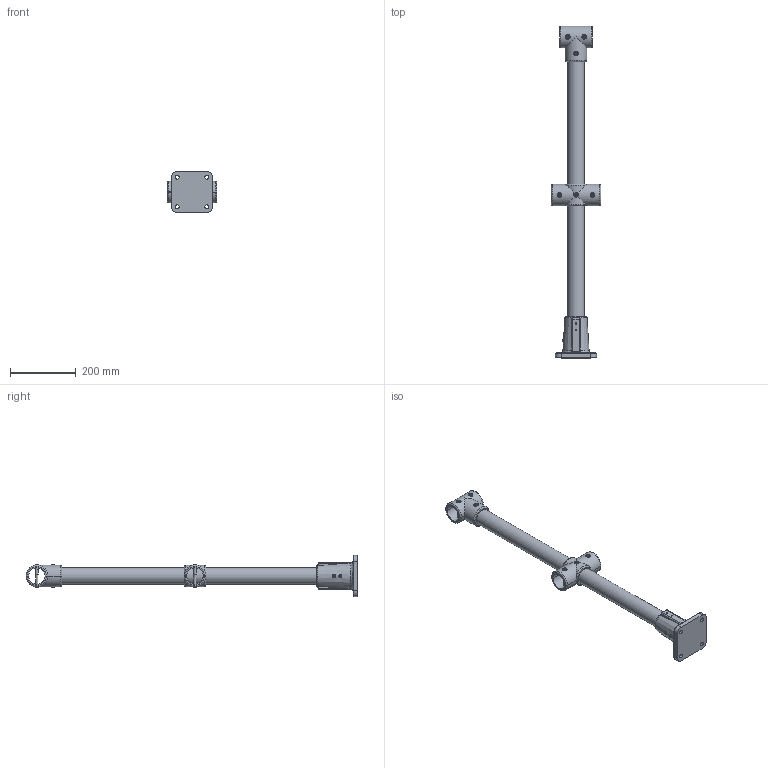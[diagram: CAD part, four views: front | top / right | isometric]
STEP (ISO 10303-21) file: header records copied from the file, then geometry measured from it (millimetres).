
FILE_DESCRIPTION(/* description */ (''),/* implementation_level */ '2;1');
FILE_NAME(/* name */ 'W:\8 Drafting Support\3 Product Drawings\Handrails\3D Models\MHST-01\MHST-01_PH01.stp',/* time_stamp */ '2025-03-11T12:05:02+10:00',/* author */ ('Callum'),/* organization */ (''),/* preprocessor_version */ 'ST-DEVELOPER v18.1',/* originating_system */ 'Autodesk Inventor 2022',/* authorisation */ '');
FILE_SCHEMA (('AUTOMOTIVE_DESIGN { 1 0 10303 214 3 1 1 }'));
Products named in the file (15): MHST-01_PH01; MHST-01 BASE SKETCH; MHST-01-SN; MH3-Wcross Connector_PH01; MH3-W Cross-Y; MH3-Wcross connector 1; MH4 - Connect Assembly_PH01; MHR-M6-304; M6x8 Barrel Nut; M6x50 Soc Head Screw; MH4-Connect-Y; MH4-CONNECT; MH1-4 Base-IB-VY_PH01; MH1-4 Base-IB-VY; 10Gx25-G410-W-SD-SQ2
Assembly tree (22 placements, depth 4):
  MHST-01_PH01
    MHST-01 BASE SKETCH
    MHST-01-SN
    MH3-Wcross Connector_PH01
      MHR-M6-304  x3
        M6x8 Barrel Nut
        M6x50 Soc Head Screw
      MH3-W Cross-Y
        MH3-Wcross connector 1  x2
    MH4 - Connect Assembly_PH01
      MHR-M6-304  x3
        M6x8 Barrel Nut
        M6x50 Soc Head Screw
      MH4-Connect-Y
        MH4-CONNECT  x2
    MH1-4 Base-IB-VY_PH01
      MH1-4 Base-IB-VY
      10Gx25-G410-W-SD-SQ2  x2
Bounding box: 150 x 1008 x 125 mm (x, y, z)
Volume: 1578106.7 mm3; surface area: 480077 mm2
Topology: 20 solids, 20 shells, 693 faces, 1749 edges, 1161 vertices
Faces by surface type: plane 355, cylinder 152, bspline 86, torus 46, cone 42, sphere 12
Full cylindrical faces by diameter (mm): 3.05 x12, 3.9 x2, 4 x8, 4.8 x2, 5 x6, 6 x6, 8 x6, 8.5 x12, 10 x2, 12 x4, 14 x12, 40 x1, 50 x1
Entity records: 19942 total; most frequent: CARTESIAN_POINT 8819, ORIENTED_EDGE 2336, DIRECTION 1947, EDGE_CURVE 1168, VERTEX_POINT 766, AXIS2_PLACEMENT_3D 651, LINE 645, VECTOR 645
